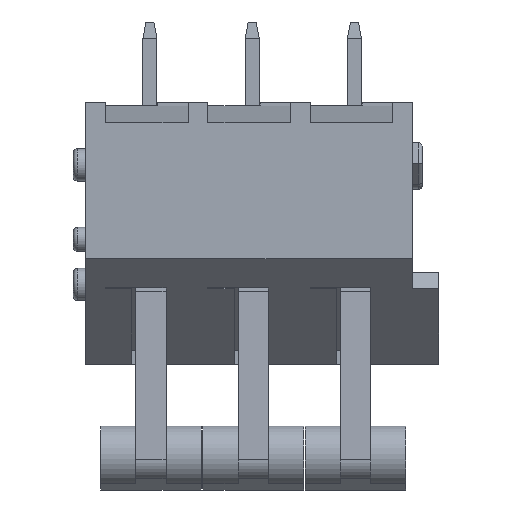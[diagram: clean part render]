
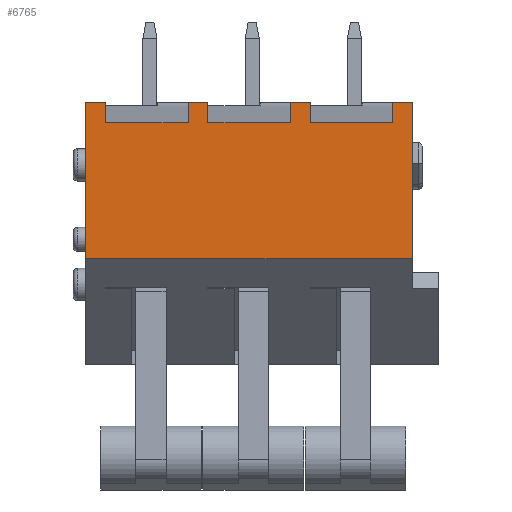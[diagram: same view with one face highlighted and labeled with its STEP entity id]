
A CAD part, left-side view. The second image highlights one B-rep face of the part: STEP entity #6765.
In plain terms, the highlighted planar face has unit normal (-1, 0, 0).
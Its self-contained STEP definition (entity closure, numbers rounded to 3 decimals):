
#460=DIRECTION('',(0.,1.,0.));
#461=VECTOR('',#460,4.1);
#462=CARTESIAN_POINT('',(0.,-4.1,-1.));
#463=LINE('',#462,#461);
#492=DIRECTION('',(0.,-1.,0.));
#493=VECTOR('',#492,1.);
#494=CARTESIAN_POINT('',(0.,6.08,0.));
#495=LINE('',#494,#493);
#496=DIRECTION('',(0.,0.,-1.));
#497=VECTOR('',#496,1.);
#498=CARTESIAN_POINT('',(0.,5.08,0.));
#499=LINE('',#498,#497);
#500=DIRECTION('',(0.,0.,1.));
#501=VECTOR('',#500,1.);
#502=CARTESIAN_POINT('',(0.,0.98,-1.));
#503=LINE('',#502,#501);
#504=DIRECTION('',(0.,-1.,0.));
#505=VECTOR('',#504,0.98);
#506=CARTESIAN_POINT('',(0.,0.98,0.));
#507=LINE('',#506,#505);
#508=DIRECTION('',(0.,0.,-1.));
#509=VECTOR('',#508,1.);
#510=CARTESIAN_POINT('',(0.,0.,0.));
#511=LINE('',#510,#509);
#512=DIRECTION('',(0.,0.,1.));
#513=VECTOR('',#512,1.);
#514=CARTESIAN_POINT('',(0.,-4.1,-1.));
#515=LINE('',#514,#513);
#516=DIRECTION('',(0.,-1.,0.));
#517=VECTOR('',#516,0.98);
#518=CARTESIAN_POINT('',(0.,-4.1,0.));
#519=LINE('',#518,#517);
#520=DIRECTION('',(0.,0.,-1.));
#521=VECTOR('',#520,1.);
#522=CARTESIAN_POINT('',(0.,-5.08,0.));
#523=LINE('',#522,#521);
#524=DIRECTION('',(0.,0.,1.));
#525=VECTOR('',#524,1.);
#526=CARTESIAN_POINT('',(0.,-9.18,-1.));
#527=LINE('',#526,#525);
#528=DIRECTION('',(0.,-1.,0.));
#529=VECTOR('',#528,0.98);
#530=CARTESIAN_POINT('',(0.,-9.18,0.));
#531=LINE('',#530,#529);
#532=DIRECTION('',(0.,0.,-1.));
#533=VECTOR('',#532,7.75);
#534=CARTESIAN_POINT('',(0.,-10.16,0.));
#535=LINE('',#534,#533);
#544=DIRECTION('',(0.,-1.,0.));
#545=VECTOR('',#544,16.24);
#546=CARTESIAN_POINT('',(0.,6.08,-7.75));
#547=LINE('',#546,#545);
#749=DIRECTION('',(0.,0.,-1.));
#750=VECTOR('',#749,7.75);
#751=CARTESIAN_POINT('',(0.,6.08,0.));
#752=LINE('',#751,#750);
#3895=DIRECTION('',(0.,1.,0.));
#3896=VECTOR('',#3895,4.1);
#3897=CARTESIAN_POINT('',(0.,0.98,-1.));
#3898=LINE('',#3897,#3896);
#3916=DIRECTION('',(0.,1.,0.));
#3917=VECTOR('',#3916,4.1);
#3918=CARTESIAN_POINT('',(0.,-9.18,-1.));
#3919=LINE('',#3918,#3917);
#4604=CARTESIAN_POINT('',(0.,0.,-1.));
#4605=VERTEX_POINT('',#4604);
#4606=CARTESIAN_POINT('',(0.,0.,0.));
#4607=VERTEX_POINT('',#4606);
#4624=CARTESIAN_POINT('',(0.,-4.1,-1.));
#4625=VERTEX_POINT('',#4624);
#4767=CARTESIAN_POINT('',(0.,5.08,-1.));
#4769=VERTEX_POINT('',#4767);
#4770=CARTESIAN_POINT('',(0.,5.08,0.));
#4771=VERTEX_POINT('',#4770);
#4836=CARTESIAN_POINT('',(0.,6.08,0.));
#4837=VERTEX_POINT('',#4836);
#4838=CARTESIAN_POINT('',(0.,6.08,-7.75));
#4839=CARTESIAN_POINT('',(0.,-10.16,-7.75));
#4840=VERTEX_POINT('',#4838);
#4841=VERTEX_POINT('',#4839);
#4842=CARTESIAN_POINT('',(0.,0.98,-1.));
#4843=VERTEX_POINT('',#4842);
#4844=CARTESIAN_POINT('',(0.,0.98,0.));
#4845=VERTEX_POINT('',#4844);
#4846=CARTESIAN_POINT('',(0.,-4.1,0.));
#4847=VERTEX_POINT('',#4846);
#4848=CARTESIAN_POINT('',(0.,-5.08,0.));
#4849=VERTEX_POINT('',#4848);
#4850=CARTESIAN_POINT('',(0.,-5.08,-1.));
#4851=VERTEX_POINT('',#4850);
#4852=CARTESIAN_POINT('',(0.,-9.18,-1.));
#4853=VERTEX_POINT('',#4852);
#4854=CARTESIAN_POINT('',(0.,-9.18,0.));
#4855=VERTEX_POINT('',#4854);
#4856=CARTESIAN_POINT('',(0.,-10.16,0.));
#4857=VERTEX_POINT('',#4856);
#6732=CARTESIAN_POINT('',(0.,0.,-7.75));
#6733=DIRECTION('',(-1.,0.,0.));
#6734=DIRECTION('',(0.,0.,1.));
#6735=AXIS2_PLACEMENT_3D('',#6732,#6733,#6734);
#6736=PLANE('',#6735);
#6738=ORIENTED_EDGE('',*,*,#6737,.F.);
#6740=ORIENTED_EDGE('',*,*,#6739,.F.);
#6742=ORIENTED_EDGE('',*,*,#6741,.T.);
#6744=ORIENTED_EDGE('',*,*,#6743,.T.);
#6746=ORIENTED_EDGE('',*,*,#6745,.F.);
#6748=ORIENTED_EDGE('',*,*,#6747,.T.);
#6750=ORIENTED_EDGE('',*,*,#6749,.T.);
#6751=ORIENTED_EDGE('',*,*,#6341,.T.);
#6752=ORIENTED_EDGE('',*,*,#6682,.F.);
#6753=ORIENTED_EDGE('',*,*,#6711,.T.);
#6754=ORIENTED_EDGE('',*,*,#6724,.T.);
#6755=ORIENTED_EDGE('',*,*,#6562,.T.);
#6757=ORIENTED_EDGE('',*,*,#6756,.F.);
#6759=ORIENTED_EDGE('',*,*,#6758,.T.);
#6761=ORIENTED_EDGE('',*,*,#6760,.T.);
#6762=ORIENTED_EDGE('',*,*,#6011,.T.);
#6763=EDGE_LOOP('',(#6738,#6740,#6742,#6744,#6746,#6748,#6750,#6751,#6752,#6753,
#6754,#6755,#6757,#6759,#6761,#6762));
#6764=FACE_OUTER_BOUND('',#6763,.F.);
#6765=ADVANCED_FACE('',(#6764),#6736,.T.);
#6011=EDGE_CURVE('',#4857,#4841,#535,.T.);
#6341=EDGE_CURVE('',#4607,#4605,#511,.T.);
#6562=EDGE_CURVE('',#4849,#4851,#523,.T.);
#6682=EDGE_CURVE('',#4625,#4605,#463,.T.);
#6711=EDGE_CURVE('',#4625,#4847,#515,.T.);
#6724=EDGE_CURVE('',#4847,#4849,#519,.T.);
#6737=EDGE_CURVE('',#4840,#4841,#547,.T.);
#6739=EDGE_CURVE('',#4837,#4840,#752,.T.);
#6741=EDGE_CURVE('',#4837,#4771,#495,.T.);
#6743=EDGE_CURVE('',#4771,#4769,#499,.T.);
#6745=EDGE_CURVE('',#4843,#4769,#3898,.T.);
#6747=EDGE_CURVE('',#4843,#4845,#503,.T.);
#6749=EDGE_CURVE('',#4845,#4607,#507,.T.);
#6756=EDGE_CURVE('',#4853,#4851,#3919,.T.);
#6758=EDGE_CURVE('',#4853,#4855,#527,.T.);
#6760=EDGE_CURVE('',#4855,#4857,#531,.T.);
